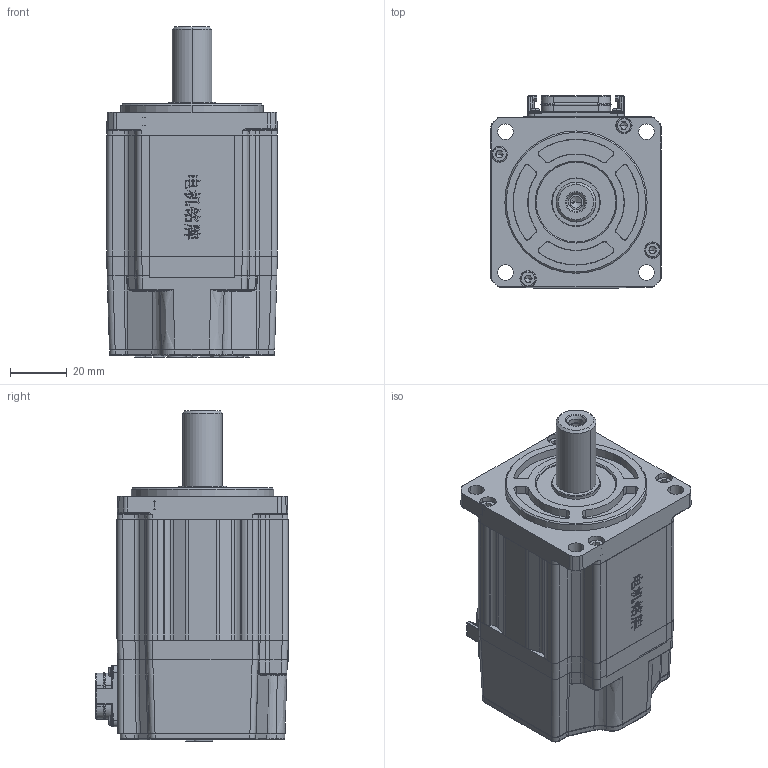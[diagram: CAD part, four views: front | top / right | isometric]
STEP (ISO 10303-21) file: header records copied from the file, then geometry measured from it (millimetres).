
FILE_DESCRIPTION (( 'STEP AP203' ), '1' );
FILE_NAME ('MC20-060-3L30-N201-0¡õCL-NNNN.STEP', '2026-04-19T15:11:24', ( '' ), ( '' ), 'SwSTEP 2.0', 'SolidWorks 2014', '' );
FILE_SCHEMA (( 'CONFIG_CONTROL_DESIGN' ));
Length unit declared in the file: millimetre
Products named in the file (1): MC20-060-3L30-N201-0¡õCL-NNNN
Bounding box: 60 x 67.55 x 116 mm (x, y, z)
Volume: 282453.2 mm3; surface area: 66402.9 mm2
Topology: 10 solids, 14 shells, 2176 faces, 5797 edges, 3726 vertices
Faces by surface type: plane 980, cylinder 562, bspline 428, cone 170, torus 36
Entity records: 88931 total; most frequent: CARTESIAN_POINT 38633, ORIENTED_EDGE 11468, DIRECTION 8787, EDGE_CURVE 5734, VERTEX_POINT 3726, LINE 3233, VECTOR 3233, AXIS2_PLACEMENT_3D 2777
